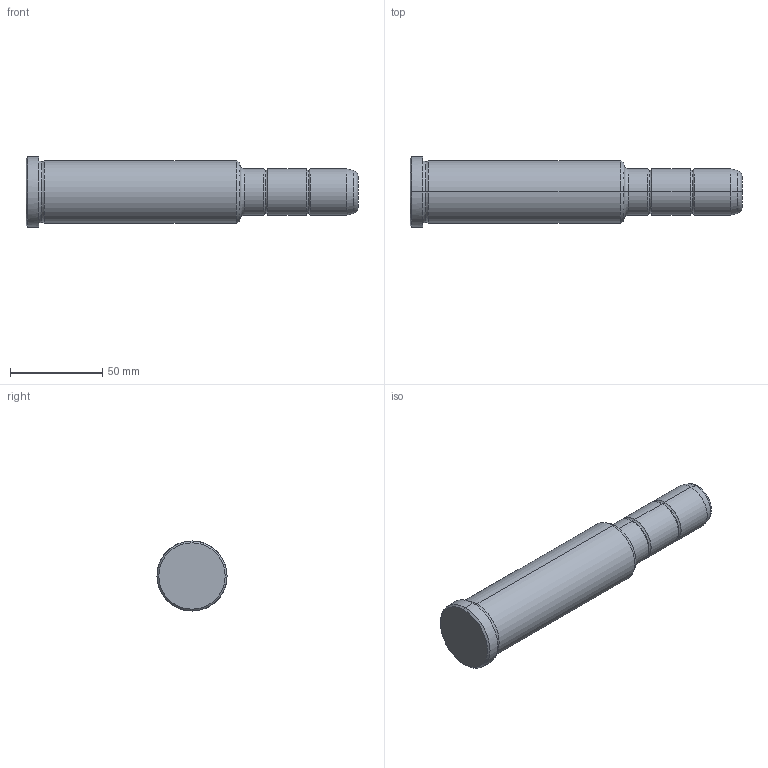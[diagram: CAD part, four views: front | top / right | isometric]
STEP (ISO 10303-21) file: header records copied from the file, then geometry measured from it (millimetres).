
FILE_DESCRIPTION(('CATIA V5 STEP Exchange'),'2;1');
FILE_NAME('C:\Users\Utente\Desktop\IO LAVORO\3D X SITO CF\X SITO\PLASTICA\351\351-25X116X180.stp','2021-09-07T11:54:47+00:00',('none'),('none'),'CATIA Version 5 Release 20 GA (IN-10)','CATIA V5 STEP AP203','none');
FILE_SCHEMA(('CONFIG_CONTROL_DESIGN'));
Length unit declared in the file: millimetre
Products named in the file (1): 351-25X116X180
Bounding box: 180 x 38 x 38 mm (x, y, z)
Volume: 137529 mm3; surface area: 19463.2 mm2
Topology: 1 solids, 1 shells, 36 faces, 102 edges, 70 vertices
Faces by surface type: torus 16, cylinder 10, cone 6, plane 4
Entity records: 1292 total; most frequent: CARTESIAN_POINT 321, ORIENTED_EDGE 204, DIRECTION 166, AXIS2_PLACEMENT_3D 115, EDGE_CURVE 102, CIRCLE 78, VERTEX_POINT 70, EDGE_LOOP 38
